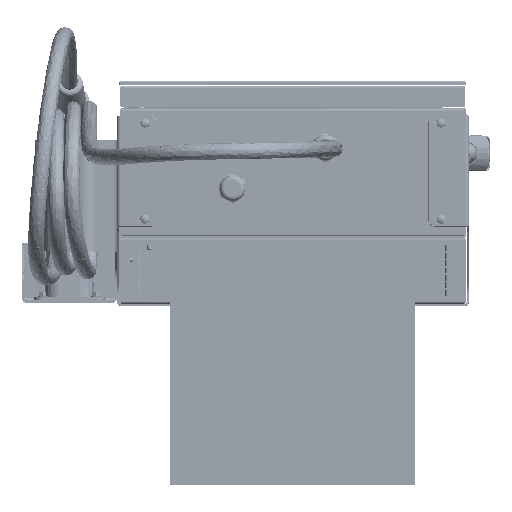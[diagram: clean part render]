
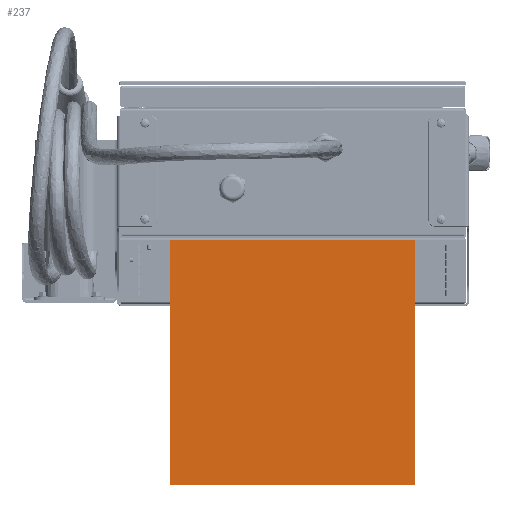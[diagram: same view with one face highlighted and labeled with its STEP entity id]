
A CAD part, front view. The second image highlights one B-rep face of the part: STEP entity #237.
In plain terms, the highlighted planar face has unit normal (0, -1, 0).
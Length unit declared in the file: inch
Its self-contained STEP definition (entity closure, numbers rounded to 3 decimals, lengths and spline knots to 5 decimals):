
#53=DIRECTION('',(0.,0.,1.));
#54=VECTOR('',#53,13.);
#55=CARTESIAN_POINT('',(-6.5,-1.,-6.5));
#56=LINE('',#55,#54);
#57=DIRECTION('',(1.,0.,0.));
#58=VECTOR('',#57,13.);
#59=CARTESIAN_POINT('',(-6.5,-1.,6.5));
#60=LINE('',#59,#58);
#61=DIRECTION('',(0.,0.,-1.));
#62=VECTOR('',#61,13.);
#63=CARTESIAN_POINT('',(6.5,-1.,6.5));
#64=LINE('',#63,#62);
#65=DIRECTION('',(-1.,0.,0.));
#66=VECTOR('',#65,13.);
#67=CARTESIAN_POINT('',(6.5,-1.,-6.5));
#68=LINE('',#67,#66);
#105=CARTESIAN_POINT('',(-6.5,-1.,-6.5));
#106=CARTESIAN_POINT('',(-6.5,-1.,6.5));
#107=VERTEX_POINT('',#105);
#108=VERTEX_POINT('',#106);
#109=CARTESIAN_POINT('',(6.5,-1.,6.5));
#110=VERTEX_POINT('',#109);
#111=CARTESIAN_POINT('',(6.5,-1.,-6.5));
#112=VERTEX_POINT('',#111);
#226=CARTESIAN_POINT('',(0.,-1.,0.));
#227=DIRECTION('',(0.,1.,0.));
#228=DIRECTION('',(1.,0.,0.));
#229=AXIS2_PLACEMENT_3D('',#226,#227,#228);
#230=PLANE('',#229);
#231=ORIENTED_EDGE('',*,*,#178,.T.);
#232=ORIENTED_EDGE('',*,*,#193,.T.);
#233=ORIENTED_EDGE('',*,*,#207,.T.);
#234=ORIENTED_EDGE('',*,*,#220,.T.);
#235=EDGE_LOOP('',(#231,#232,#233,#234));
#236=FACE_OUTER_BOUND('',#235,.F.);
#237=ADVANCED_FACE('',(#236),#230,.F.);
#178=EDGE_CURVE('',#107,#108,#56,.T.);
#193=EDGE_CURVE('',#108,#110,#60,.T.);
#207=EDGE_CURVE('',#110,#112,#64,.T.);
#220=EDGE_CURVE('',#112,#107,#68,.T.);
